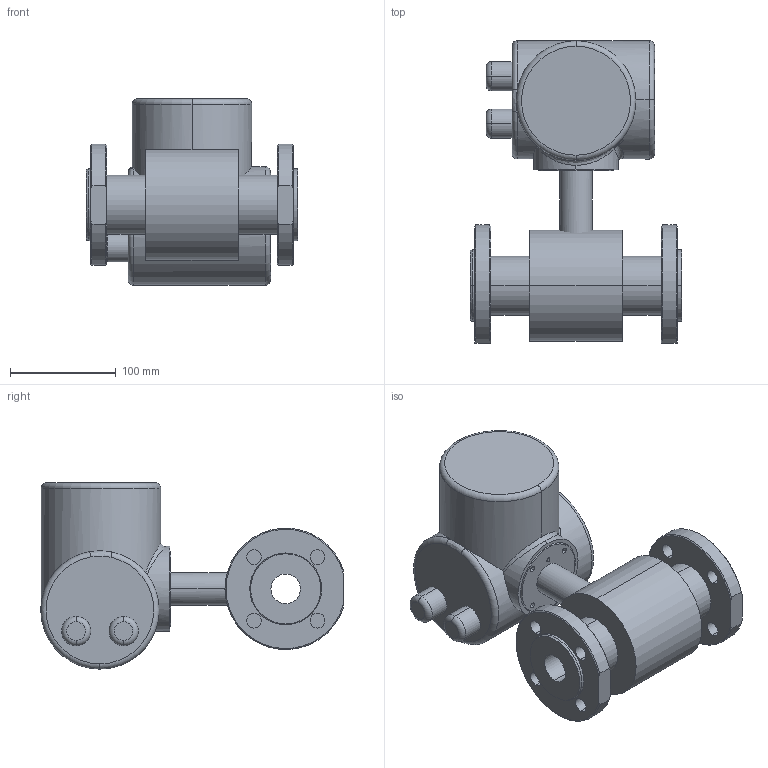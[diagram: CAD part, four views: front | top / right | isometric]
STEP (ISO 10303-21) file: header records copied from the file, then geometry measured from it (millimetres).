
FILE_DESCRIPTION (( 'STEP AP203' ), '1' );
FILE_NAME ('Ðàñõîäîìåð-ñ÷åò÷èê ýëåêòðîìàãíèòíûé ÏÈÒÅÐÔËÎÓ Ò3 - 25 Ex .STEP', '2022-06-24T08:19:35', ( '' ), ( '' ), 'SwSTEP 2.0', 'SolidWorks 2016', '' );
FILE_SCHEMA (( 'CONFIG_CONTROL_DESIGN' ));
Length unit declared in the file: millimetre
Products named in the file (1): Ðàñõîäîìåð-ñ÷åò÷èê ýëåêòðîìàãíèòíûé ÏÈÒÅÐÔËÎÓ Ò3 - 25 Ex 
Bounding box: 200.6 x 286.5 x 176.4 mm (x, y, z)
Volume: 3293909.5 mm3; surface area: 251412 mm2
Topology: 5 solids, 5 shells, 219 faces, 534 edges, 336 vertices
Faces by surface type: cylinder 98, cone 62, plane 44, torus 10, bspline 4, sphere 1
Entity records: 9176 total; most frequent: CARTESIAN_POINT 3864, DIRECTION 1143, ORIENTED_EDGE 1060, EDGE_CURVE 530, AXIS2_PLACEMENT_3D 487, VERTEX_POINT 336, CIRCLE 271, EDGE_LOOP 266
